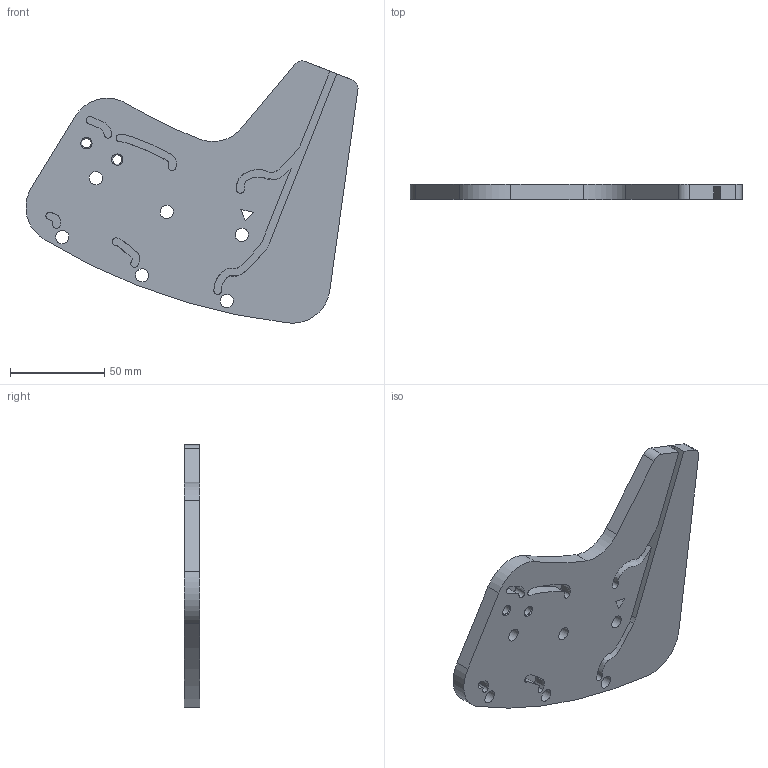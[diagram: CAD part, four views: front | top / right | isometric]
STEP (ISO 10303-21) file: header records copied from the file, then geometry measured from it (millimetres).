
FILE_DESCRIPTION(/* description */ (''),/* implementation_level */ '2;1');
FILE_NAME(/* name */ 'GETOUT_STAVE_93.stp',/* time_stamp */ '2018-10-15T11:02:02+02:00',/* author */ (''),/* organization */ (''),/* preprocessor_version */ 'ST-DEVELOPER v16.7',/* originating_system */ 'SIEMENS PLM Software NX 12.0',/* authorisation */ '');
FILE_SCHEMA (('AP203_CONFIGURATION_CONTROLLED_3D_DESIGN_OF_MECHANICAL_PARTS_AND_ASSEMBLIES_MIM_LF { 1 0 10303 403 2 1 2}'));
Length unit declared in the file: millimetre
Products named in the file (1): turc3FB8140Bmo06
Bounding box: 175.97 x 8 x 139.03 mm (x, y, z)
Volume: 117534.9 mm3; surface area: 40717.1 mm2
Topology: 1 solids, 1 shells, 297 faces, 776 edges, 516 vertices
Faces by surface type: plane 207, extrusion 57, cylinder 29, cone 4
Full cylindrical faces by diameter (mm): 5 x2, 7 x6
Entity records: 11641 total; most frequent: CARTESIAN_POINT 5029, ORIENTED_EDGE 1528, DIRECTION 931, EDGE_CURVE 764, VERTEX_POINT 516, B_SPLINE_CURVE_WITH_KNOTS 491, EDGE_LOOP 362, VECTOR 325
